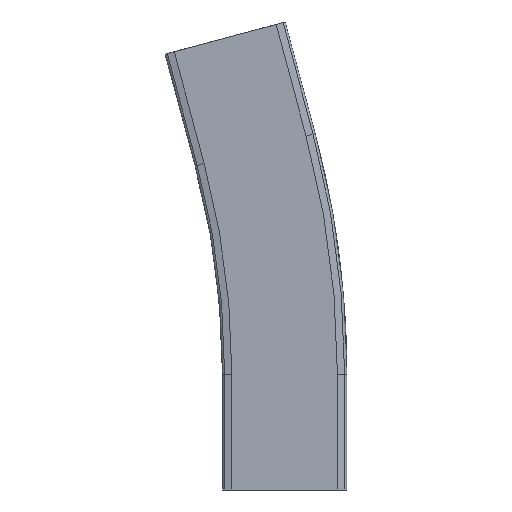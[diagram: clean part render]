
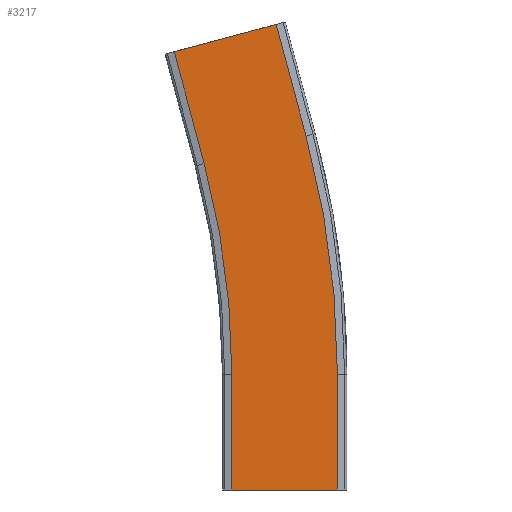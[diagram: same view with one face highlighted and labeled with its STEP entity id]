
A CAD part, front view. The second image highlights one B-rep face of the part: STEP entity #3217.
In plain terms, the highlighted planar face has unit normal (0, -1, 0).
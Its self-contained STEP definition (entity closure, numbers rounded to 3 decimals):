
#327=FACE_OUTER_BOUND('',#499,.T.);
#499=EDGE_LOOP('',(#2925,#2926,#2927,#2928,#2929,#2930,#2931,#2932));
#577=CIRCLE('',#3458,636.5);
#580=CIRCLE('',#3464,563.5);
#894=LINE('',#5537,#1236);
#899=LINE('',#5546,#1241);
#901=LINE('',#5551,#1243);
#916=LINE('',#5591,#1258);
#921=LINE('',#5602,#1263);
#922=LINE('',#5604,#1264);
#1236=VECTOR('',#4203,10.);
#1241=VECTOR('',#4210,10.);
#1243=VECTOR('',#4214,10.);
#1258=VECTOR('',#4255,10.);
#1263=VECTOR('',#4268,10.);
#1264=VECTOR('',#4271,10.);
#1544=VERTEX_POINT('',#5534);
#1545=VERTEX_POINT('',#5536);
#1548=VERTEX_POINT('',#5543);
#1549=VERTEX_POINT('',#5548);
#1559=VERTEX_POINT('',#5574);
#1561=VERTEX_POINT('',#5584);
#1562=VERTEX_POINT('',#5589);
#1564=VERTEX_POINT('',#5600);
#1988=EDGE_CURVE('',#1545,#1544,#894,.T.);
#1993=EDGE_CURVE('',#1545,#1548,#899,.T.);
#1995=EDGE_CURVE('',#1544,#1549,#901,.T.);
#2008=EDGE_CURVE('',#1549,#1559,#577,.T.);
#2014=EDGE_CURVE('',#1548,#1561,#580,.T.);
#2016=EDGE_CURVE('',#1559,#1562,#916,.T.);
#2021=EDGE_CURVE('',#1561,#1564,#921,.T.);
#2022=EDGE_CURVE('',#1562,#1564,#922,.T.);
#2925=ORIENTED_EDGE('',*,*,#2022,.T.);
#2926=ORIENTED_EDGE('',*,*,#2021,.F.);
#2927=ORIENTED_EDGE('',*,*,#2014,.F.);
#2928=ORIENTED_EDGE('',*,*,#1993,.F.);
#2929=ORIENTED_EDGE('',*,*,#1988,.T.);
#2930=ORIENTED_EDGE('',*,*,#1995,.T.);
#2931=ORIENTED_EDGE('',*,*,#2008,.T.);
#2932=ORIENTED_EDGE('',*,*,#2016,.T.);
#3050=PLANE('',#3470);
#3217=ADVANCED_FACE('',(#327),#3050,.T.);
#3458=AXIS2_PLACEMENT_3D('',#5576,#4235,#4236);
#3464=AXIS2_PLACEMENT_3D('',#5587,#4250,#4251);
#3470=AXIS2_PLACEMENT_3D('',#5603,#4269,#4270);
#4203=DIRECTION('',(1.,0.,0.));
#4210=DIRECTION('',(0.,0.,1.));
#4214=DIRECTION('',(0.,0.,1.));
#4235=DIRECTION('center_axis',(0.,-1.,0.));
#4236=DIRECTION('ref_axis',(1.,0.,0.));
#4250=DIRECTION('center_axis',(0.,-1.,0.));
#4251=DIRECTION('ref_axis',(1.,0.,0.));
#4255=DIRECTION('',(-0.259,0.,0.966));
#4268=DIRECTION('',(-0.259,0.,0.966));
#4269=DIRECTION('center_axis',(0.,-1.,0.));
#4270=DIRECTION('ref_axis',(0.259,0.,-0.966));
#4271=DIRECTION('',(-0.966,0.,-0.259));
#5534=CARTESIAN_POINT('',(36.5,-11.,0.));
#5536=CARTESIAN_POINT('',(-36.5,-11.,0.));
#5537=CARTESIAN_POINT('',(-36.5,-11.,0.));
#5543=CARTESIAN_POINT('',(-36.5,-11.,80.));
#5546=CARTESIAN_POINT('',(-36.5,-11.,0.));
#5548=CARTESIAN_POINT('',(36.5,-11.,80.));
#5551=CARTESIAN_POINT('',(36.5,-11.,0.));
#5574=CARTESIAN_POINT('',(14.812,-11.,244.738));
#5576=CARTESIAN_POINT('Origin',(-600.,-11.,80.));
#5584=CARTESIAN_POINT('',(-55.701,-11.,225.845));
#5587=CARTESIAN_POINT('Origin',(-600.,-11.,80.));
#5589=CARTESIAN_POINT('',(-5.894,-11.,322.012));
#5591=CARTESIAN_POINT('',(76.173,-11.,15.737));
#5600=CARTESIAN_POINT('',(-76.406,-11.,303.119));
#5602=CARTESIAN_POINT('',(5.66,-11.,-3.157));
#5603=CARTESIAN_POINT('Origin',(76.173,-11.,15.737));
#5604=CARTESIAN_POINT('',(-22.073,-11.,317.677));
